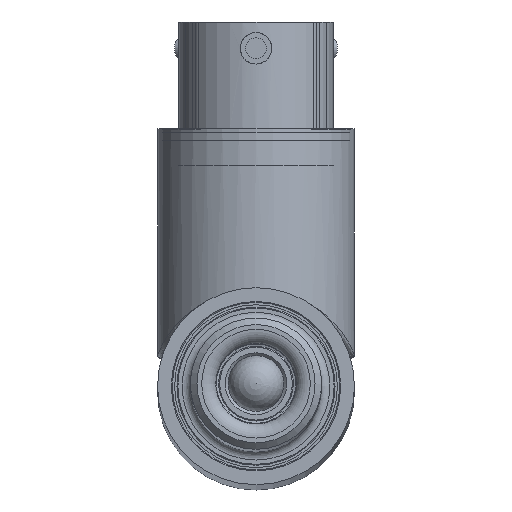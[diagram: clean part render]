
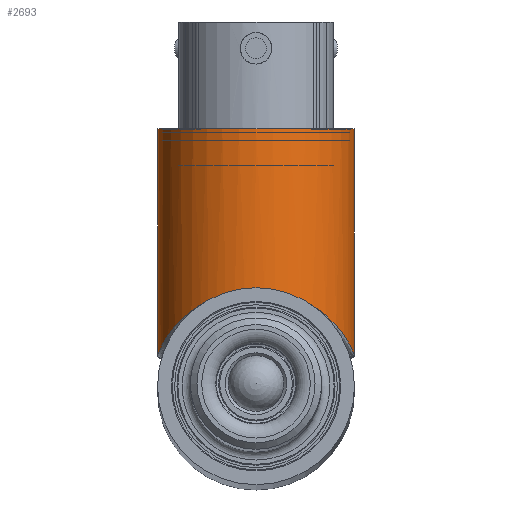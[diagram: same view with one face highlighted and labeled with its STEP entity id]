
A CAD part, top view. The second image highlights one B-rep face of the part: STEP entity #2693.
In plain terms, the highlighted cylindrical face has radius 9.525 mm (diameter 19.05 mm), a full revolution.
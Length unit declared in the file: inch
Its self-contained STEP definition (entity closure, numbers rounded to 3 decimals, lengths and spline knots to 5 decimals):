
#48=B_SPLINE_CURVE_WITH_KNOTS('',3,(#4814,#4815,#4816,#4817,#4818,#4819,
#4820,#4821,#4822,#4823,#4824,#4825,#4826,#4827,#4828,#4829,#4830,#4831,
#4832,#4833,#4834,#4835,#4836,#4837,#4838,#4839,#4840,#4841),
 .UNSPECIFIED.,.F.,.F.,(4,1,1,1,1,1,1,1,1,1,1,1,1,1,1,1,1,1,1,1,1,1,1,1,
1,4),(-9.63704,-9.40762,-9.17816,-8.71925,
-8.41331,-8.26035,-8.10738,-8.03089,
-7.95441,-7.80144,-7.4955,-6.88362,
-6.57768,-6.27174,-5.9658,-5.35393,
-5.04799,-4.93326,-4.81853,-4.70381,
-4.58908,-4.35963,-4.13017,-3.67126,
-3.44181,-3.21236),.UNSPECIFIED.);
#265=FACE_OUTER_BOUND('',#454,.T.);
#454=EDGE_LOOP('',(#1802,#1803,#1804,#1805));
#672=LINE('',#4874,#801);
#801=VECTOR('',#3457,0.375);
#936=CIRCLE('',#3027,0.375);
#1139=VERTEX_POINT('',#4813);
#1141=VERTEX_POINT('',#4873);
#1392=EDGE_CURVE('',#1139,#1139,#48,.T.);
#1395=EDGE_CURVE('',#1141,#1139,#672,.T.);
#1396=EDGE_CURVE('',#1141,#1141,#936,.T.);
#1802=ORIENTED_EDGE('',*,*,#1392,.F.);
#1803=ORIENTED_EDGE('',*,*,#1395,.F.);
#1804=ORIENTED_EDGE('',*,*,#1396,.F.);
#1805=ORIENTED_EDGE('',*,*,#1395,.T.);
#2410=CYLINDRICAL_SURFACE('',#3026,0.375);
#2693=ADVANCED_FACE('',(#265),#2410,.T.);
#3026=AXIS2_PLACEMENT_3D('',#4872,#3455,#3456);
#3027=AXIS2_PLACEMENT_3D('',#4875,#3458,#3459);
#3455=DIRECTION('center_axis',(0.,1.,0.));
#3456=DIRECTION('ref_axis',(0.,0.,
1.));
#3457=DIRECTION('',(0.,-1.,0.));
#3458=DIRECTION('center_axis',(0.,1.,0.));
#3459=DIRECTION('ref_axis',(0.,0.,
1.));
#4813=CARTESIAN_POINT('',(0.,0.3875,-5.755));
#4814=CARTESIAN_POINT('Ctrl Pts',(0.,0.3875,
-5.755));
#4815=CARTESIAN_POINT('Ctrl Pts',(0.03115,0.3875,
-5.755));
#4816=CARTESIAN_POINT('Ctrl Pts',(0.09335,0.38035,
-5.7471));
#4817=CARTESIAN_POINT('Ctrl Pts',(0.20458,0.34114,-5.70348));
#4818=CARTESIAN_POINT('Ctrl Pts',(0.29316,0.27245,-5.62528));
#4819=CARTESIAN_POINT('Ctrl Pts',(0.34371,0.20218,-5.53672));
#4820=CARTESIAN_POINT('Ctrl Pts',(0.3656,0.15994,-5.46932));
#4821=CARTESIAN_POINT('Ctrl Pts',(0.37367,0.14039,-5.42155));
#4822=CARTESIAN_POINT('Ctrl Pts',(0.37544,0.13579,-5.37999));
#4823=CARTESIAN_POINT('Ctrl Pts',(0.37368,0.14035,-5.33842));
#4824=CARTESIAN_POINT('Ctrl Pts',(0.36225,0.1682,-5.2716));
#4825=CARTESIAN_POINT('Ctrl Pts',(0.31691,0.24866,-5.16108));
#4826=CARTESIAN_POINT('Ctrl Pts',(0.21711,0.34028,-5.05752));
#4827=CARTESIAN_POINT('Ctrl Pts',(0.06395,0.38895,
-5.00335));
#4828=CARTESIAN_POINT('Ctrl Pts',(-0.06399,0.38901,
-5.00329));
#4829=CARTESIAN_POINT('Ctrl Pts',(-0.21711,0.3402,
-5.05774));
#4830=CARTESIAN_POINT('Ctrl Pts',(-0.31689,0.24862,
-5.1607));
#4831=CARTESIAN_POINT('Ctrl Pts',(-0.36063,0.17112,
-5.26778));
#4832=CARTESIAN_POINT('Ctrl Pts',(-0.373,0.14219,-5.33338));
#4833=CARTESIAN_POINT('Ctrl Pts',(-0.37598,0.13437,
-5.38001));
#4834=CARTESIAN_POINT('Ctrl Pts',(-0.37299,0.14219,
-5.42667));
#4835=CARTESIAN_POINT('Ctrl Pts',(-0.36244,0.16681,
-5.48285));
#4836=CARTESIAN_POINT('Ctrl Pts',(-0.33996,0.20835,
-5.54431));
#4837=CARTESIAN_POINT('Ctrl Pts',(-0.28642,0.27752,
-5.63137));
#4838=CARTESIAN_POINT('Ctrl Pts',(-0.20457,0.3412,
-5.70344));
#4839=CARTESIAN_POINT('Ctrl Pts',(-0.09337,0.38032,
-5.74711));
#4840=CARTESIAN_POINT('Ctrl Pts',(-0.03116,0.3875,
-5.755));
#4841=CARTESIAN_POINT('Ctrl Pts',(-0.00001,0.3875,
-5.755));
#4872=CARTESIAN_POINT('Origin',(0.,0.5,
-5.38));
#4873=CARTESIAN_POINT('',(0.,1.,-5.755));
#4874=CARTESIAN_POINT('',(0.,0.5,-5.755));
#4875=CARTESIAN_POINT('Origin',(0.,1.,
-5.38));
